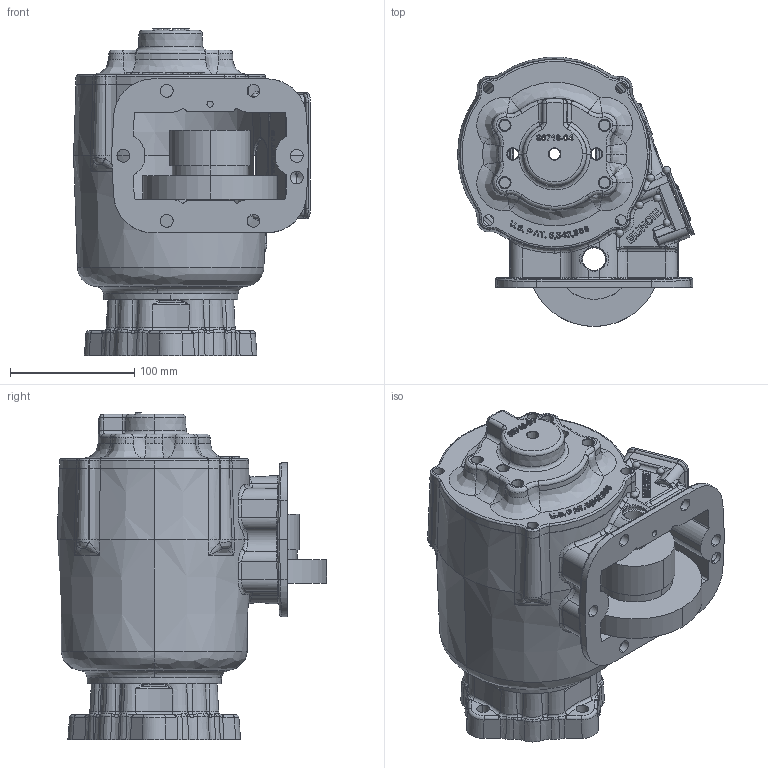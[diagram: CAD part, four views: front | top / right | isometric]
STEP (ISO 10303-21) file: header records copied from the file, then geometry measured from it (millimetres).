
FILE_DESCRIPTION (( 'STEP AP203' ), '1' );
FILE_NAME ('CS6S-XXXXX-X2DX.STEP', '2011-11-01T20:09:24', ( 'User' ), ( 'Muncie Power Products, Inc.' ), 'SwSTEP 2.0', 'SolidWorks 2011', '' );
FILE_SCHEMA (( 'CONFIG_CONTROL_DESIGN' ));
Products named in the file (1): CS6S-XXXXX-X2DX
Bounding box: 190.82 x 216.75 x 263.64 mm (x, y, z)
Surface area: 312291.5 mm2 (no closed solid volume)
Topology: 0 solids, 18 shells, 1445 faces, 4574 edges, 2971 vertices
Faces by surface type: bspline 738, cylinder 276, plane 241, cone 190
Entity records: 118487 total; most frequent: CARTESIAN_POINT 85757, ORIENTED_EDGE 7897, EDGE_CURVE 4498, DIRECTION 4196, VERTEX_POINT 2971, B_SPLINE_CURVE_WITH_KNOTS 2285, EDGE_LOOP 1576, ADVANCED_FACE 1444
